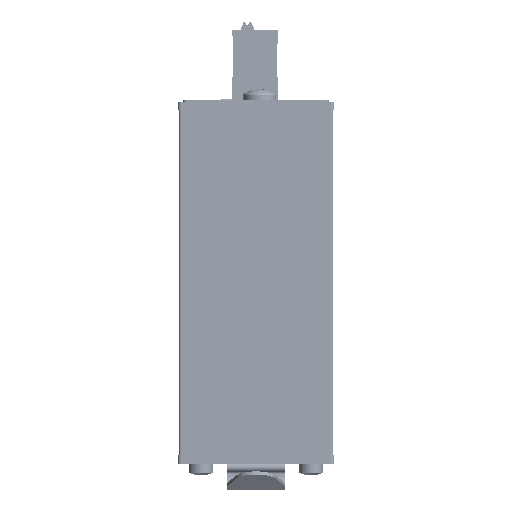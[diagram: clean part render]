
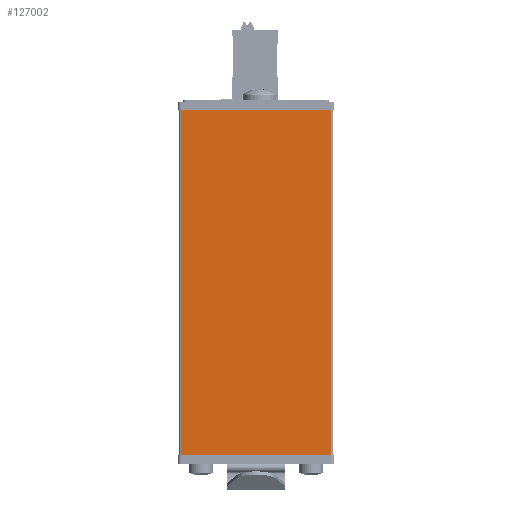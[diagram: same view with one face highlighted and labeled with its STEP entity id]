
A CAD part, front view. The second image highlights one B-rep face of the part: STEP entity #127002.
In plain terms, the highlighted planar face has unit normal (0, -1, 0).
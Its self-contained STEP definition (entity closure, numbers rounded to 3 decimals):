
#8441 = ORIENTED_EDGE ( 'NONE', *, *, #84318, .F. ) ;
#19111 = CARTESIAN_POINT ( 'NONE',  ( 36.5, 0., -83.1 ) ) ;
#30698 = CARTESIAN_POINT ( 'NONE',  ( 36.5, 0., -83.1 ) ) ;
#36121 = LINE ( 'NONE', #19111, #194583 ) ;
#46356 = CARTESIAN_POINT ( 'NONE',  ( 36.5, 0., -0.1 ) ) ;
#47502 = DIRECTION ( 'NONE',  ( 0., -1., 0. ) ) ;
#57702 = EDGE_CURVE ( 'NONE', #249070, #202212, #36121, .T. ) ;
#67108 = DIRECTION ( 'NONE',  ( 1., 0., 0. ) ) ;
#68371 = PLANE ( 'NONE',  #87340 ) ;
#70963 = CARTESIAN_POINT ( 'NONE',  ( 0.5, 0., -83.1 ) ) ;
#76580 = CARTESIAN_POINT ( 'NONE',  ( 0.5, 0., -0.1 ) ) ;
#84318 = EDGE_CURVE ( 'NONE', #219290, #97521, #85777, .T. ) ;
#85777 = LINE ( 'NONE', #169455, #213278 ) ;
#87340 = AXIS2_PLACEMENT_3D ( 'NONE', #70963, #47502, #67108 ) ;
#93607 = ORIENTED_EDGE ( 'NONE', *, *, #57702, .T. ) ;
#96279 = DIRECTION ( 'NONE',  ( 0., 0., 1. ) ) ;
#97521 = VERTEX_POINT ( 'NONE', #137204 ) ;
#111993 = DIRECTION ( 'NONE',  ( 1., 0., 0. ) ) ;
#113047 = EDGE_LOOP ( 'NONE', ( #206834, #8441, #203637, #93607 ) ) ;
#123495 = LINE ( 'NONE', #183598, #191766 ) ;
#127002 = ADVANCED_FACE ( 'NONE', ( #246165 ), #68371, .T. ) ;
#127643 = DIRECTION ( 'NONE',  ( 0., 0., 1. ) ) ;
#137204 = CARTESIAN_POINT ( 'NONE',  ( 0.5, 0., -0.1 ) ) ;
#169455 = CARTESIAN_POINT ( 'NONE',  ( 0.5, 0., -83.1 ) ) ;
#183598 = CARTESIAN_POINT ( 'NONE',  ( 0.5, 0., -83.1 ) ) ;
#191766 = VECTOR ( 'NONE', #203225, 1000. ) ;
#194152 = EDGE_CURVE ( 'NONE', #219290, #249070, #123495, .T. ) ;
#194583 = VECTOR ( 'NONE', #96279, 1000. ) ;
#201955 = EDGE_CURVE ( 'NONE', #97521, #202212, #210016, .T. ) ;
#202212 = VERTEX_POINT ( 'NONE', #46356 ) ;
#203225 = DIRECTION ( 'NONE',  ( 1., 0., 0. ) ) ;
#203637 = ORIENTED_EDGE ( 'NONE', *, *, #194152, .T. ) ;
#206834 = ORIENTED_EDGE ( 'NONE', *, *, #201955, .F. ) ;
#210016 = LINE ( 'NONE', #76580, #211382 ) ;
#211382 = VECTOR ( 'NONE', #111993, 1000. ) ;
#213278 = VECTOR ( 'NONE', #127643, 1000. ) ;
#219290 = VERTEX_POINT ( 'NONE', #232813 ) ;
#232813 = CARTESIAN_POINT ( 'NONE',  ( 0.5, 0., -83.1 ) ) ;
#246165 = FACE_OUTER_BOUND ( 'NONE', #113047, .T. ) ;
#249070 = VERTEX_POINT ( 'NONE', #30698 ) ;
